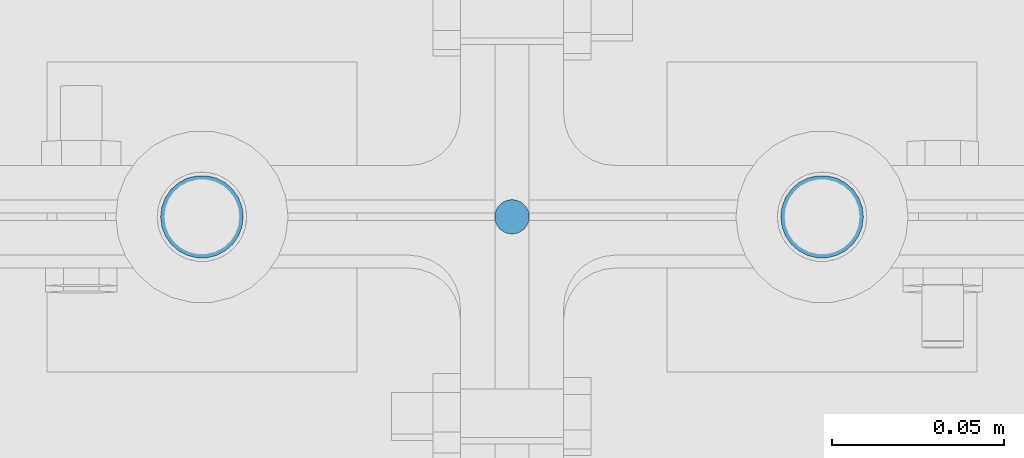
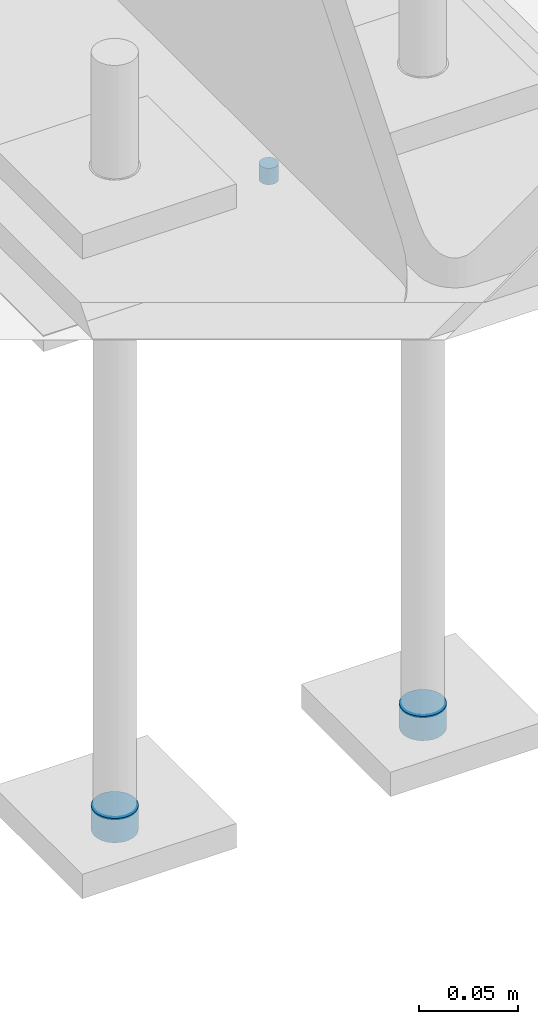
# One storey, part 216 of 362: 3 mechanical fasteners.
"""IFC2X3 building model written with IfcOpenShell, lengths in millimetres."""

from ifc_helpers import new_model, si_unit, frame, origin_with_axes, origin_2d_with_axis, place, context, subcontext, project, spatial, circle, extrude, source, transform, mapped, material, type_object, element, save


model = new_model("IFC2X3")

# Units and contexts
model_context = context("Model", 3, precision=1e-05, world=origin_with_axes())
body_context = subcontext(model_context, "Body", "Model", "MODEL_VIEW")
ifc_project = project(units=[si_unit("LENGTHUNIT", "METRE", prefix="MILLI"), si_unit("AREAUNIT", "SQUARE_METRE"), si_unit("VOLUMEUNIT", "CUBIC_METRE"), si_unit("MASSUNIT", "GRAM", prefix="KILO"), si_unit("TIMEUNIT", "SECOND"), si_unit("PLANEANGLEUNIT", "RADIAN"), si_unit("SOLIDANGLEUNIT", "STERADIAN"), si_unit("THERMODYNAMICTEMPERATUREUNIT", "DEGREE_CELSIUS"), si_unit("LUMINOUSINTENSITYUNIT", "LUMEN")], contexts=[model_context])

# Site, building, storey
site_placement = place(None, origin_with_axes())
site = spatial("IfcSite", under=ifc_project, at=site_placement, Name="Undefined", CompositionType="ELEMENT")
building_placement = place(site_placement, origin_with_axes())
building = spatial("IfcBuilding", under=site, at=building_placement, Name="Undefined", CompositionType="ELEMENT")
storey_placement = place(building_placement, origin_with_axes())
storey = spatial("IfcBuildingStorey", under=building, at=storey_placement, Name="Undefined", CompositionType="ELEMENT", Elevation=0.0)

# Mechanical fasteners
ifc_material = material(Name="6.8")
mechanical_fastener_type = type_object("IfcMechanicalFastenerType", Name="Bolt assembly")
shared_shape_1 = source(origin_with_axes(), body_context, "Body", "SweptSolid", [
    extrude(circle(Radius=12.0, at=origin_2d_with_axis()), frame((0.0, -14.999999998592, 0.0), z_axis=(0.0, 1.0, 0.0), x_axis=(1.0, 0.0, 0.0)), (0.0, 0.0, 1.0), 15.1),
])
for number, where, z_axis, x_axis, name in (
    (1, (8389.99715044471, 0.0, -580.0), (0.0, -1.0, 0.0), (-1.0, 0.0, 0.0), "Bolt assembly"),
    (2, (8569.99715044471, 0.0, -580.0), (0.0, -1.0, 0.0), (-1.0, 0.0, 0.0), "Bolt assembly"),
):
    element("IfcMechanicalFastener", number, at=place(storey_placement, frame(where, z_axis=z_axis, x_axis=x_axis)), inside=storey, type_object=mechanical_fastener_type, material=ifc_material, Name=name, NominalDiameter=22.0, NominalLength=15.0, context=body_context, shape_type="MappedRepresentation", body=[
        mapped(shared_shape_1, transform((0.0, 0.0, 0.0))),
    ])
shared_shape_2 = source(origin_with_axes(), body_context, "Body", "SweptSolid", [
    extrude(circle(Radius=5.0, at=origin_2d_with_axis()), frame((0.0, 0.0, 0.0), z_axis=(0.0, 1.0, 0.0), x_axis=(1.0, 0.0, 0.0)), (0.0, 0.0, 1.0), 10.1),
])
mechanical_fastener_placement = place(storey_placement, frame((8480.00000007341, 0.0, -200.0), z_axis=(1.0, 0.0, 0.0), x_axis=(0.0, -1.0, 0.0)))
element("IfcMechanicalFastener", 3, at=mechanical_fastener_placement, inside=storey, type_object=mechanical_fastener_type, material=ifc_material, Name="Bolt assembly", NominalDiameter=8.0, NominalLength=10.0, context=body_context, shape_type="MappedRepresentation", body=[
    mapped(shared_shape_2, transform((0.0, 0.0, 0.0))),
])

save(model, "model.ifc")
